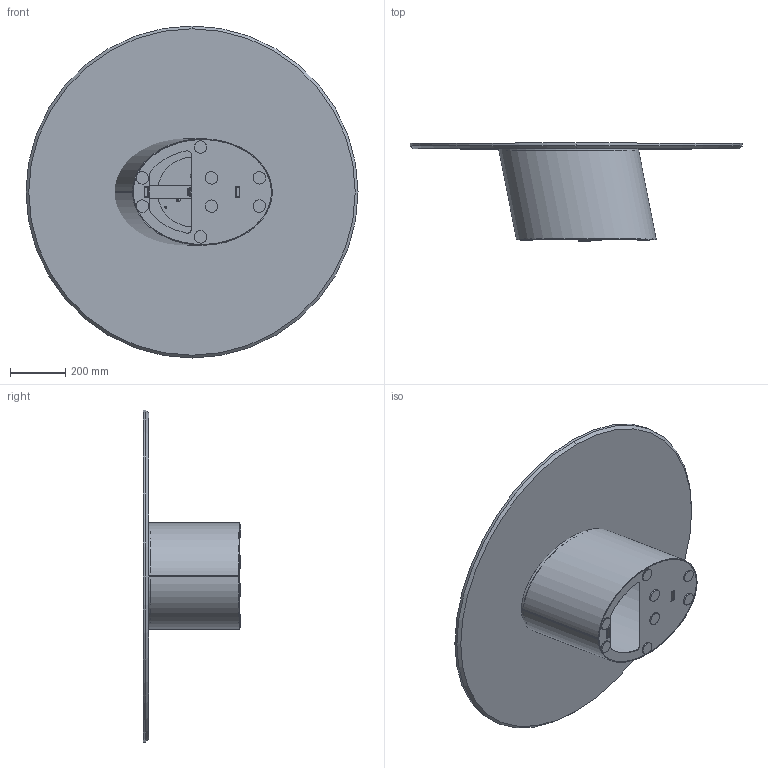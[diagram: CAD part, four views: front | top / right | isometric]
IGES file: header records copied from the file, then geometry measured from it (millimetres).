
Start section: SolidWorks IGES file using analytic representation for surfaces
Global section: file name: Y:\eforma\TECNICO\SOLIDWORKS\E-FORMA\2-TAVOLINI\DORADO LOW\02 parts\D114M.IGS; native system: SolidWorks 2022; preprocessor: SolidWorks 2022; author: eforma.tech; date: 240807.132145; units: millimetre
Bounding box: 1200 x 353 x 1200 mm (x, y, z)
Volume: 24671521.3 mm3; surface area: 3884646.6 mm2
Topology: 22 solids, 22 shells, 357 faces, 843 edges, 522 vertices
Faces by surface type: revolution 198, plane 142, bspline 17
